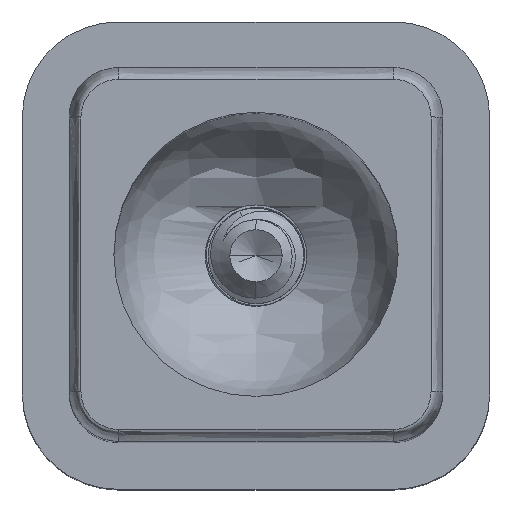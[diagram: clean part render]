
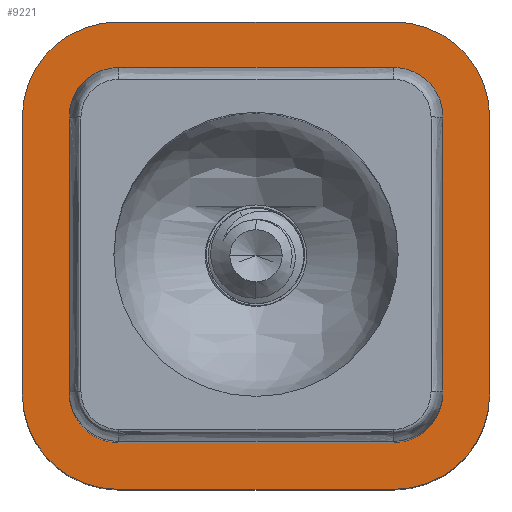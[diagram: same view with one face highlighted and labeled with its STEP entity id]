
A CAD part, top view. The second image highlights one B-rep face of the part: STEP entity #9221.
In plain terms, the highlighted planar face has unit normal (0, 0, 1).
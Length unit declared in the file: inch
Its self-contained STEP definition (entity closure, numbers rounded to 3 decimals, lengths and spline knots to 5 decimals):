
#417 = FACE_OUTER_BOUND ( 'NONE', #10301, .T. ) ;
#494 = EDGE_CURVE ( 'NONE', #5087, #12445, #12616, .T. ) ;
#533 = AXIS2_PLACEMENT_3D ( 'NONE', #9859, #4037, #10845 ) ;
#734 = CARTESIAN_POINT ( 'NONE',  ( 0.925, 1.175, 0. ) ) ;
#901 = CARTESIAN_POINT ( 'NONE',  ( 0.2, 0.2, 0. ) ) ;
#934 = CARTESIAN_POINT ( 'NONE',  ( 0.0725, 0.2025, 0. ) ) ;
#952 = DIRECTION ( 'NONE',  ( 0., 0., 1. ) ) ;
#958 = ORIENTED_EDGE ( 'NONE', *, *, #8097, .F. ) ;
#1049 = CARTESIAN_POINT ( 'NONE',  ( 0.925, -0.05, 0. ) ) ;
#1058 = CARTESIAN_POINT ( 'NONE',  ( 1.0525, 0., 0. ) ) ;
#1094 = ORIENTED_EDGE ( 'NONE', *, *, #5078, .F. ) ;
#1165 = DIRECTION ( 'NONE',  ( 0., 0., 1. ) ) ;
#1272 = ORIENTED_EDGE ( 'NONE', *, *, #8613, .F. ) ;
#1277 = EDGE_LOOP ( 'NONE', ( #1520, #6919, #3220, #8141, #11632, #4194, #12538, #4011 ) ) ;
#1480 = CIRCLE ( 'NONE', #5882, 0.25 ) ;
#1497 = CARTESIAN_POINT ( 'NONE',  ( 0.9225, 0.2025, 0. ) ) ;
#1520 = ORIENTED_EDGE ( 'NONE', *, *, #8910, .T. ) ;
#1521 = ORIENTED_EDGE ( 'NONE', *, *, #12503, .F. ) ;
#1579 = DIRECTION ( 'NONE',  ( 0., 0., 1. ) ) ;
#1634 = DIRECTION ( 'NONE',  ( 1., 0., 0. ) ) ;
#1704 = CARTESIAN_POINT ( 'NONE',  ( -0.05, 0.2, 0. ) ) ;
#1706 = DIRECTION ( 'NONE',  ( 1., 0., 0. ) ) ;
#1883 = DIRECTION ( 'NONE',  ( -1., 0., 0. ) ) ;
#1899 = CARTESIAN_POINT ( 'NONE',  ( 0.0725, 0.9225, 0. ) ) ;
#1949 = VECTOR ( 'NONE', #10965, 39.37008 ) ;
#1967 = DIRECTION ( 'NONE',  ( 1., 0., 0. ) ) ;
#2036 = DIRECTION ( 'NONE',  ( 0., -1., 0. ) ) ;
#2110 = CARTESIAN_POINT ( 'NONE',  ( 0.925, 0.2, 0. ) ) ;
#2140 = ORIENTED_EDGE ( 'NONE', *, *, #9519, .F. ) ;
#2306 = ORIENTED_EDGE ( 'NONE', *, *, #11414, .F. ) ;
#2546 = CIRCLE ( 'NONE', #12026, 0.13 ) ;
#2555 = LINE ( 'NONE', #6015, #7463 ) ;
#2885 = VECTOR ( 'NONE', #1967, 39.37008 ) ;
#2892 = ORIENTED_EDGE ( 'NONE', *, *, #10298, .F. ) ;
#3119 = DIRECTION ( 'NONE',  ( -1., 0., 0. ) ) ;
#3220 = ORIENTED_EDGE ( 'NONE', *, *, #8512, .T. ) ;
#3353 = FACE_BOUND ( 'NONE', #1277, .T. ) ;
#3392 = CARTESIAN_POINT ( 'NONE',  ( 1.175, 0.2, 0. ) ) ;
#3564 = VERTEX_POINT ( 'NONE', #3963 ) ;
#3612 = EDGE_CURVE ( 'NONE', #10772, #12445, #9943, .T. ) ;
#3801 = CARTESIAN_POINT ( 'NONE',  ( 0.2025, 0.2025, 0. ) ) ;
#3963 = CARTESIAN_POINT ( 'NONE',  ( -0.05, 0.925, 0. ) ) ;
#4011 = ORIENTED_EDGE ( 'NONE', *, *, #11733, .F. ) ;
#4037 = DIRECTION ( 'NONE',  ( 0., 0., -1. ) ) ;
#4168 = AXIS2_PLACEMENT_3D ( 'NONE', #11463, #12426, #6571 ) ;
#4194 = ORIENTED_EDGE ( 'NONE', *, *, #494, .F. ) ;
#4272 = DIRECTION ( 'NONE',  ( 0., 1., 0. ) ) ;
#4297 = CIRCLE ( 'NONE', #5069, 0.13 ) ;
#4404 = VERTEX_POINT ( 'NONE', #7709 ) ;
#4591 = CARTESIAN_POINT ( 'NONE',  ( -0.05, 0.2, 0. ) ) ;
#4605 = VECTOR ( 'NONE', #4272, 39.37008 ) ;
#4801 = DIRECTION ( 'NONE',  ( 1., 0., 0. ) ) ;
#5069 = AXIS2_PLACEMENT_3D ( 'NONE', #3801, #10623, #4801 ) ;
#5078 = EDGE_CURVE ( 'NONE', #6961, #10626, #10851, .T. ) ;
#5087 = VERTEX_POINT ( 'NONE', #9261 ) ;
#5089 = VERTEX_POINT ( 'NONE', #8221 ) ;
#5394 = CARTESIAN_POINT ( 'NONE',  ( 0.925, 0.925, 0. ) ) ;
#5428 = VERTEX_POINT ( 'NONE', #3392 ) ;
#5809 = LINE ( 'NONE', #6907, #2885 ) ;
#5882 = AXIS2_PLACEMENT_3D ( 'NONE', #2110, #8968, #3119 ) ;
#6015 = CARTESIAN_POINT ( 'NONE',  ( 1.175, 0.2, 0. ) ) ;
#6052 = CARTESIAN_POINT ( 'NONE',  ( 0., 0.0725, 0. ) ) ;
#6081 = VECTOR ( 'NONE', #9518, 39.37008 ) ;
#6261 = CARTESIAN_POINT ( 'NONE',  ( 1.0525, 0.9225, 0. ) ) ;
#6345 = VERTEX_POINT ( 'NONE', #934 ) ;
#6352 = DIRECTION ( 'NONE',  ( -1., 0., 0. ) ) ;
#6430 = VERTEX_POINT ( 'NONE', #9758 ) ;
#6439 = AXIS2_PLACEMENT_3D ( 'NONE', #901, #7744, #1883 ) ;
#6528 = PLANE ( 'NONE',  #4168 ) ;
#6571 = DIRECTION ( 'NONE',  ( 1., 0., 0. ) ) ;
#6639 = CARTESIAN_POINT ( 'NONE',  ( 0.2, 1.175, 0. ) ) ;
#6814 = CARTESIAN_POINT ( 'NONE',  ( 0.2025, 0.9225, 0. ) ) ;
#6907 = CARTESIAN_POINT ( 'NONE',  ( 0., 1.0525, 0. ) ) ;
#6919 = ORIENTED_EDGE ( 'NONE', *, *, #10214, .F. ) ;
#6961 = VERTEX_POINT ( 'NONE', #11147 ) ;
#7034 = CARTESIAN_POINT ( 'NONE',  ( 0.9225, 0.9225, 0. ) ) ;
#7226 = VERTEX_POINT ( 'NONE', #1899 ) ;
#7420 = AXIS2_PLACEMENT_3D ( 'NONE', #5394, #12212, #6352 ) ;
#7448 = CIRCLE ( 'NONE', #533, 0.25 ) ;
#7463 = VECTOR ( 'NONE', #7962, 39.37008 ) ;
#7709 = CARTESIAN_POINT ( 'NONE',  ( 0.9225, 1.0525, 0. ) ) ;
#7744 = DIRECTION ( 'NONE',  ( 0., 0., -1. ) ) ;
#7791 = DIRECTION ( 'NONE',  ( 1., 0., 0. ) ) ;
#7962 = DIRECTION ( 'NONE',  ( 0., -1., 0. ) ) ;
#8005 = DIRECTION ( 'NONE',  ( 1., 0., 0. ) ) ;
#8073 = CIRCLE ( 'NONE', #6439, 0.25 ) ;
#8086 = CARTESIAN_POINT ( 'NONE',  ( 1.175, 0.925, 0. ) ) ;
#8097 = EDGE_CURVE ( 'NONE', #8145, #6961, #11622, .T. ) ;
#8141 = ORIENTED_EDGE ( 'NONE', *, *, #8692, .F. ) ;
#8145 = VERTEX_POINT ( 'NONE', #6639 ) ;
#8221 = CARTESIAN_POINT ( 'NONE',  ( 0.2025, 1.0525, 0. ) ) ;
#8268 = EDGE_CURVE ( 'NONE', #6430, #11527, #8073, .T. ) ;
#8512 = EDGE_CURVE ( 'NONE', #5089, #4404, #5809, .T. ) ;
#8613 = EDGE_CURVE ( 'NONE', #10626, #5428, #2555, .T. ) ;
#8633 = CARTESIAN_POINT ( 'NONE',  ( 0.925, -0.05, 0. ) ) ;
#8677 = LINE ( 'NONE', #4591, #6081 ) ;
#8692 = EDGE_CURVE ( 'NONE', #10772, #4404, #10076, .T. ) ;
#8766 = EDGE_CURVE ( 'NONE', #5087, #9364, #9771, .T. ) ;
#8837 = CARTESIAN_POINT ( 'NONE',  ( 1.0525, 0.2025, 0. ) ) ;
#8894 = AXIS2_PLACEMENT_3D ( 'NONE', #7034, #1165, #8005 ) ;
#8910 = EDGE_CURVE ( 'NONE', #6345, #7226, #9469, .T. ) ;
#8968 = DIRECTION ( 'NONE',  ( 0., 0., -1. ) ) ;
#9012 = VECTOR ( 'NONE', #1706, 39.37008 ) ;
#9221 = ADVANCED_FACE ( 'NONE', ( #417, #3353 ), #6528, .T. ) ;
#9261 = CARTESIAN_POINT ( 'NONE',  ( 0.9225, 0.0725, 0. ) ) ;
#9364 = VERTEX_POINT ( 'NONE', #12468 ) ;
#9469 = LINE ( 'NONE', #11092, #4605 ) ;
#9518 = DIRECTION ( 'NONE',  ( 0., 1., 0. ) ) ;
#9519 = EDGE_CURVE ( 'NONE', #11255, #6430, #12504, .T. ) ;
#9613 = VECTOR ( 'NONE', #9707, 39.37008 ) ;
#9637 = VECTOR ( 'NONE', #2036, 39.37008 ) ;
#9643 = AXIS2_PLACEMENT_3D ( 'NONE', #1497, #1579, #1634 ) ;
#9707 = DIRECTION ( 'NONE',  ( -1., 0., 0. ) ) ;
#9758 = CARTESIAN_POINT ( 'NONE',  ( 0.2, -0.05, 0. ) ) ;
#9771 = LINE ( 'NONE', #6052, #1949 ) ;
#9859 = CARTESIAN_POINT ( 'NONE',  ( 0.2, 0.925, 0. ) ) ;
#9943 = LINE ( 'NONE', #1058, #9637 ) ;
#10076 = CIRCLE ( 'NONE', #8894, 0.13 ) ;
#10214 = EDGE_CURVE ( 'NONE', #5089, #7226, #2546, .T. ) ;
#10298 = EDGE_CURVE ( 'NONE', #3564, #8145, #7448, .T. ) ;
#10301 = EDGE_LOOP ( 'NONE', ( #2140, #1521, #1272, #1094, #958, #2892, #2306, #11031 ) ) ;
#10623 = DIRECTION ( 'NONE',  ( 0., 0., 1. ) ) ;
#10626 = VERTEX_POINT ( 'NONE', #8086 ) ;
#10772 = VERTEX_POINT ( 'NONE', #6261 ) ;
#10845 = DIRECTION ( 'NONE',  ( -1., 0., 0. ) ) ;
#10851 = CIRCLE ( 'NONE', #7420, 0.25 ) ;
#10965 = DIRECTION ( 'NONE',  ( -1., 0., 0. ) ) ;
#11031 = ORIENTED_EDGE ( 'NONE', *, *, #8268, .F. ) ;
#11092 = CARTESIAN_POINT ( 'NONE',  ( 0.0725, 0., 0. ) ) ;
#11147 = CARTESIAN_POINT ( 'NONE',  ( 0.925, 1.175, 0. ) ) ;
#11255 = VERTEX_POINT ( 'NONE', #1049 ) ;
#11414 = EDGE_CURVE ( 'NONE', #11527, #3564, #8677, .T. ) ;
#11463 = CARTESIAN_POINT ( 'NONE',  ( 0.125, 0.125, 0. ) ) ;
#11527 = VERTEX_POINT ( 'NONE', #1704 ) ;
#11622 = LINE ( 'NONE', #734, #9012 ) ;
#11632 = ORIENTED_EDGE ( 'NONE', *, *, #3612, .T. ) ;
#11733 = EDGE_CURVE ( 'NONE', #6345, #9364, #4297, .T. ) ;
#12026 = AXIS2_PLACEMENT_3D ( 'NONE', #6814, #952, #7791 ) ;
#12212 = DIRECTION ( 'NONE',  ( 0., 0., -1. ) ) ;
#12426 = DIRECTION ( 'NONE',  ( 0., 0., 1. ) ) ;
#12445 = VERTEX_POINT ( 'NONE', #8837 ) ;
#12468 = CARTESIAN_POINT ( 'NONE',  ( 0.2025, 0.0725, 0. ) ) ;
#12503 = EDGE_CURVE ( 'NONE', #5428, #11255, #1480, .T. ) ;
#12504 = LINE ( 'NONE', #8633, #9613 ) ;
#12538 = ORIENTED_EDGE ( 'NONE', *, *, #8766, .T. ) ;
#12616 = CIRCLE ( 'NONE', #9643, 0.13 ) ;
